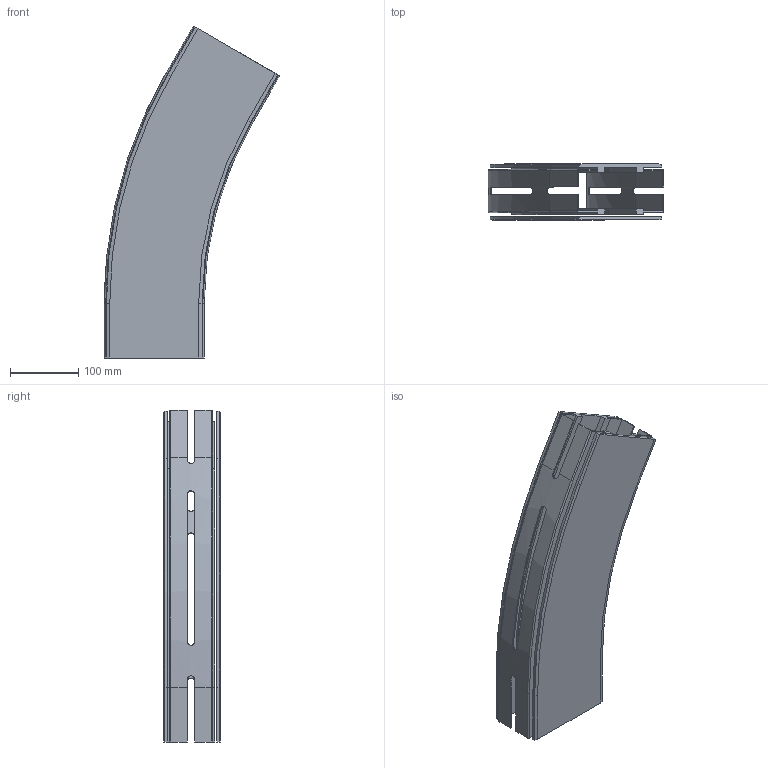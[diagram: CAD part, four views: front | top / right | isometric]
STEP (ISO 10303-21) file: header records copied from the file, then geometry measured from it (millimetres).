
FILE_DESCRIPTION(/* description */ ('GLIDKURVA SERIE 540'),/* implementation_level */ '2;1');
FILE_NAME(/* name */ '540-5375+140-2000-01.stp',/* time_stamp */ '2022-09-21T08:59:31+02:00',/* author */ ('Mathias.Dore'),/* organization */ ('CARRYLINE'),/* preprocessor_version */ 'ST-DEVELOPER v19.2',/* originating_system */ 'Autodesk Inventor 2023',/* authorisation */ '');
FILE_SCHEMA (('AUTOMOTIVE_DESIGN { 1 0 10303 214 3 1 1 }'));
Length unit declared in the file: millimetre
Products named in the file (1): 540-5375+140-2000-01
Bounding box: 256.6 x 82 x 485.78 mm (x, y, z)
Volume: 1070851.9 mm3; surface area: 553437.7 mm2
Topology: 2 solids, 2 shells, 175 faces, 482 edges, 316 vertices
Faces by surface type: plane 117, cylinder 28, bspline 22, cone 4, torus 4
Entity records: 6121 total; most frequent: CARTESIAN_POINT 1624, ORIENTED_EDGE 964, DIRECTION 834, EDGE_CURVE 482, LINE 350, VECTOR 350, VERTEX_POINT 316, AXIS2_PLACEMENT_3D 242
